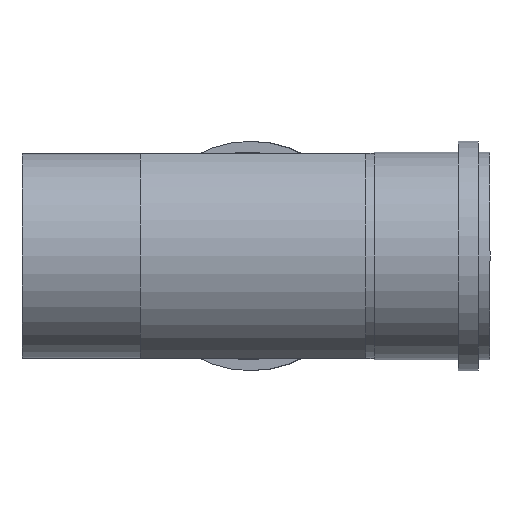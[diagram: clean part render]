
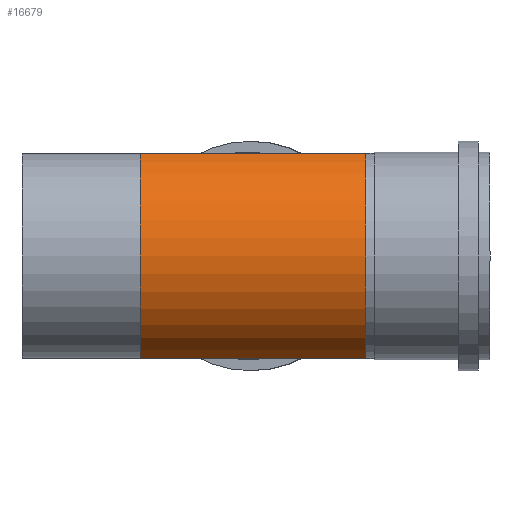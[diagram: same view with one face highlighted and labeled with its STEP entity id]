
A CAD part, front view. The second image highlights one B-rep face of the part: STEP entity #16679.
In plain terms, the highlighted cylindrical face has radius 60.325 mm (diameter 120.65 mm), a partial arc.
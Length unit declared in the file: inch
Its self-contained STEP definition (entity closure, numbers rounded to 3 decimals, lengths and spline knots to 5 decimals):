
#16581=CARTESIAN_POINT('',(-2.375,-0.97642,2.165));
#16582=VERTEX_POINT('',#16581);
#16598=CARTESIAN_POINT('',(-2.375,-0.97642,-2.165));
#16599=VERTEX_POINT('',#16598);
#16606=CARTESIAN_POINT('',(-2.375,0.,0.0));
#16607=DIRECTION('',(1.,0.0,0.0));
#16608=DIRECTION('',(0.0,-0.411,0.912));
#16609=AXIS2_PLACEMENT_3D('',#16606,#16607,#16608);
#16610=CIRCLE('',#16609,2.375);
#16611=EDGE_CURVE('',#16582,#16599,#16610,.T.);
#16623=CARTESIAN_POINT('',(2.375,-0.97642,-2.165));
#16624=VERTEX_POINT('',#16623);
#16631=CARTESIAN_POINT('',(-2.375,-0.97642,-2.165));
#16632=DIRECTION('',(1.0,0.0,0.0));
#16633=VECTOR('',#16632,4.75);
#16634=LINE('',#16631,#16633);
#16635=EDGE_CURVE('',#16599,#16624,#16634,.T.);
#16655=CARTESIAN_POINT('',(0.0,0.,0.0));
#16656=DIRECTION('',(1.0,0.0,0.0));
#16657=DIRECTION('',(0.0,-0.411,0.912));
#16658=AXIS2_PLACEMENT_3D('',#16655,#16656,#16657);
#16659=CYLINDRICAL_SURFACE('',#16658,2.375);
#16660=CARTESIAN_POINT('',(2.375,-0.97642,2.165));
#16661=VERTEX_POINT('',#16660);
#16662=CARTESIAN_POINT('',(2.375,0.,0.0));
#16663=DIRECTION('',(-1.,0.0,0.0));
#16664=DIRECTION('',(0.0,-0.411,0.912));
#16665=AXIS2_PLACEMENT_3D('',#16662,#16663,#16664);
#16666=CIRCLE('',#16665,2.375);
#16667=EDGE_CURVE('',#16624,#16661,#16666,.T.);
#16668=ORIENTED_EDGE('',*,*,#16667,.T.);
#16669=CARTESIAN_POINT('',(-2.375,-0.97642,2.165));
#16670=DIRECTION('',(1.0,0.0,0.0));
#16671=VECTOR('',#16670,4.75);
#16672=LINE('',#16669,#16671);
#16673=EDGE_CURVE('',#16582,#16661,#16672,.T.);
#16674=ORIENTED_EDGE('',*,*,#16673,.F.);
#16675=ORIENTED_EDGE('',*,*,#16611,.T.);
#16676=ORIENTED_EDGE('',*,*,#16635,.T.);
#16677=EDGE_LOOP('',(#16668,#16674,#16675,#16676));
#16678=FACE_OUTER_BOUND('',#16677,.T.);
#16679=ADVANCED_FACE('',(#16678),#16659,.T.);
